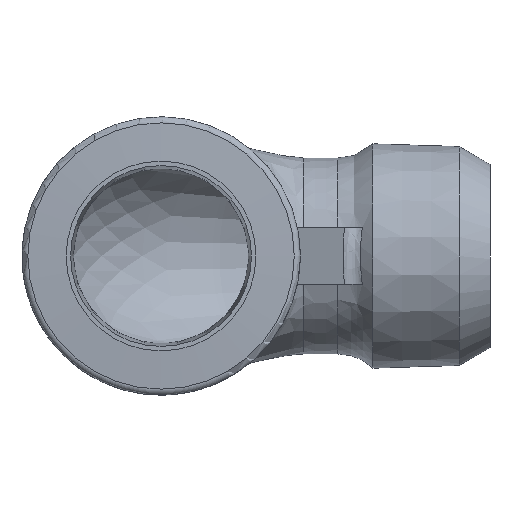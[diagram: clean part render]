
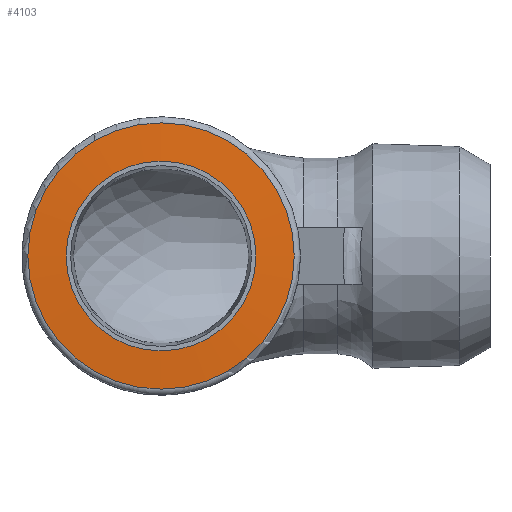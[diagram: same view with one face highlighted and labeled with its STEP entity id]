
A CAD part, front view. The second image highlights one B-rep face of the part: STEP entity #4103.
In plain terms, the highlighted conical face has half-angle 87 degrees and reference radius 18.5 mm.
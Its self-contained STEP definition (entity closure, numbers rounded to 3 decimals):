
#4069=CARTESIAN_POINT('',(15.0,0.0,0.));
#4070=VERTEX_POINT('',#4069);
#4071=CARTESIAN_POINT('',(0.0,0.0,0.0));
#4072=DIRECTION('',(0.0,1.0,0.0));
#4073=DIRECTION('',(-1.0,0.0,0.0));
#4074=AXIS2_PLACEMENT_3D('',#4071,#4072,#4073);
#4075=CIRCLE('',#4074,15.0);
#4076=EDGE_CURVE('',#4070,#4070,#4075,.T.);
#4084=CARTESIAN_POINT('',(0.0,0.183,0.0));
#4085=DIRECTION('',(0.0,1.0,0.0));
#4086=DIRECTION('',(-1.0,0.0,0.0));
#4087=AXIS2_PLACEMENT_3D('',#4084,#4085,#4086);
#4088=CONICAL_SURFACE('',#4087,18.5,87.);
#4089=ORIENTED_EDGE('',*,*,#4076,.T.);
#4090=EDGE_LOOP('',(#4089));
#4091=FACE_OUTER_BOUND('',#4090,.T.);
#4092=CARTESIAN_POINT('',(21.052,0.317,0.));
#4093=VERTEX_POINT('',#4092);
#4094=CARTESIAN_POINT('',(0.0,0.317,0.));
#4095=DIRECTION('',(0.0,1.0,0.0));
#4096=DIRECTION('',(-1.0,0.0,0.0));
#4097=AXIS2_PLACEMENT_3D('',#4094,#4095,#4096);
#4098=CIRCLE('',#4097,21.052);
#4099=EDGE_CURVE('',#4093,#4093,#4098,.T.);
#4100=ORIENTED_EDGE('',*,*,#4099,.F.);
#4101=EDGE_LOOP('',(#4100));
#4102=FACE_BOUND('',#4101,.T.);
#4103=ADVANCED_FACE('',(#4091,#4102),#4088,.T.);
